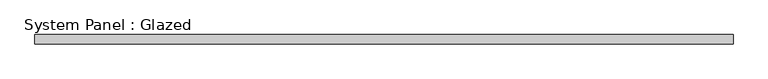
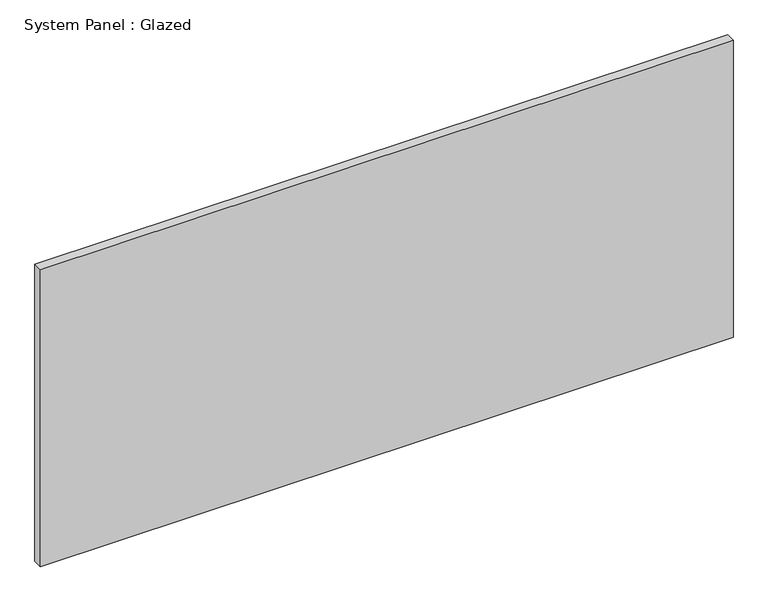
"""IFC4 building model written with IfcOpenShell, lengths in millimetres: plate geometry, System Panel : Glazed."""

from ifc_helpers import new_model, si_unit, origin, origin_with_axes, place, context, project, spatial, polyline, outline, extrude, source, transform, mapped, element, save


def system_panel_glazed_19d43485(model_context):
    return source(origin(), model_context, "Body", "SweptSolid", [
        extrude(outline(polyline([(952.5, 19.05), (-952.5, 19.05), (-952.5, 44.45), (952.5, 44.45), (952.5, 19.05)])), origin_with_axes(), (0.0, 0.0, 1.0), 863.6),
    ])


if __name__ == "__main__":
    model = new_model("IFC4")
    model_context = context("Model", 3, world=origin())
    ifc_project = project(units=[si_unit("LENGTHUNIT", "METRE", prefix="MILLI")], contexts=[model_context])
    site = spatial("IfcSite", under=ifc_project)
    building = spatial("IfcBuilding", under=site)
    placement = place(None, origin())
    system_panel_glazed_shape = system_panel_glazed_19d43485(model_context)
    element("IfcPlate", 1, ObjectType="System Panel : Glazed", at=placement, inside=building, context=model_context, shape_type="MappedRepresentation", body=[
        mapped(system_panel_glazed_shape, transform((0.0, 0.0, 0.0), x_axis=(1.0, 0.0, 0.0), y_axis=(0.0, 1.0, 0.0), z_axis=(0.0, 0.0, 1.0))),
    ])
    save(model, "model.ifc")
